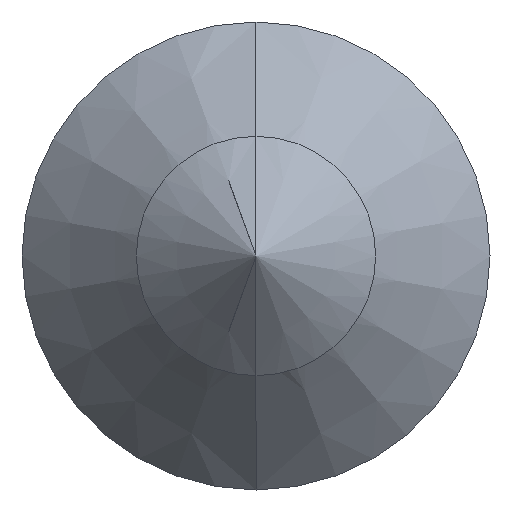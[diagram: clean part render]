
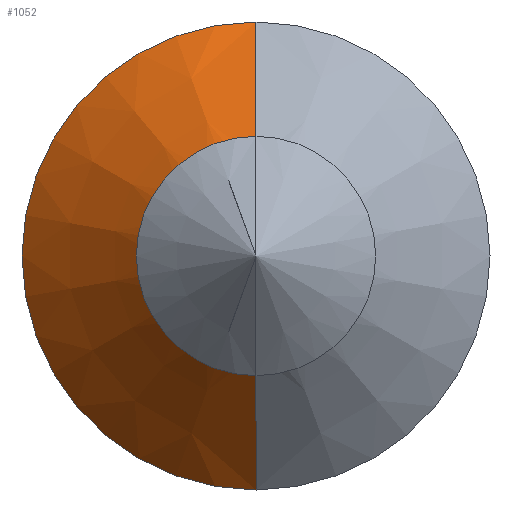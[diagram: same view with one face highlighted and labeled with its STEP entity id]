
A CAD part, left-side view. The second image highlights one B-rep face of the part: STEP entity #1052.
In plain terms, the highlighted conical face has half-angle 43.877 degrees and reference radius 2.15 mm.
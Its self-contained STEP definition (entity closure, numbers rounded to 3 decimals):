
#43 = DIRECTION ( 'NONE',  ( 0., 0., -1. ) ) ;
#60 = CONICAL_SURFACE ( 'NONE', #437, 2.15, 0.766 ) ;
#73 = DIRECTION ( 'NONE',  ( 0., 0., -1. ) ) ;
#119 = VERTEX_POINT ( 'NONE', #1390 ) ;
#157 = DIRECTION ( 'NONE',  ( 1., 0., 0. ) ) ;
#164 = CARTESIAN_POINT ( 'NONE',  ( 0.42, 0., 0. ) ) ;
#172 = CARTESIAN_POINT ( 'NONE',  ( 0.42, 0., -2.15 ) ) ;
#276 = CARTESIAN_POINT ( 'NONE',  ( -0.88, 0., -0.9 ) ) ;
#338 = EDGE_CURVE ( 'NONE', #119, #1272, #1121, .T. ) ;
#367 = DIRECTION ( 'NONE',  ( 1., 0., 0. ) ) ;
#407 = EDGE_CURVE ( 'NONE', #935, #1272, #1012, .T. ) ;
#423 = VERTEX_POINT ( 'NONE', #276 ) ;
#437 = AXIS2_PLACEMENT_3D ( 'NONE', #472, #367, #43 ) ;
#465 = DIRECTION ( 'NONE',  ( 0.721, 0., -0.693 ) ) ;
#469 = EDGE_CURVE ( 'NONE', #423, #935, #950, .T. ) ;
#472 = CARTESIAN_POINT ( 'NONE',  ( 0.42, 0., 0. ) ) ;
#494 = CARTESIAN_POINT ( 'NONE',  ( 0.42, 0., 2.15 ) ) ;
#616 = CARTESIAN_POINT ( 'NONE',  ( -0.88, 0., 0. ) ) ;
#677 = AXIS2_PLACEMENT_3D ( 'NONE', #164, #157, #73 ) ;
#730 = DIRECTION ( 'NONE',  ( 0., 0., -1. ) ) ;
#809 = EDGE_LOOP ( 'NONE', ( #977, #1046, #1115, #1129 ) ) ;
#847 = VECTOR ( 'NONE', #465, 1000. ) ;
#935 = VERTEX_POINT ( 'NONE', #1143 ) ;
#950 = LINE ( 'NONE', #172, #847 ) ;
#957 = DIRECTION ( 'NONE',  ( 0.721, 0., 0.693 ) ) ;
#967 = AXIS2_PLACEMENT_3D ( 'NONE', #616, #1437, #730 ) ;
#977 = ORIENTED_EDGE ( 'NONE', *, *, #1320, .T. ) ;
#1011 = CIRCLE ( 'NONE', #967, 0.9 ) ;
#1012 = CIRCLE ( 'NONE', #677, 2.15 ) ;
#1046 = ORIENTED_EDGE ( 'NONE', *, *, #338, .T. ) ;
#1052 = ADVANCED_FACE ( 'NONE', ( #1398 ), #60, .T. ) ;
#1080 = CARTESIAN_POINT ( 'NONE',  ( 0.42, 0., 2.15 ) ) ;
#1105 = VECTOR ( 'NONE', #957, 1000. ) ;
#1115 = ORIENTED_EDGE ( 'NONE', *, *, #407, .F. ) ;
#1121 = LINE ( 'NONE', #1080, #1105 ) ;
#1129 = ORIENTED_EDGE ( 'NONE', *, *, #469, .F. ) ;
#1143 = CARTESIAN_POINT ( 'NONE',  ( 0.42, 0., -2.15 ) ) ;
#1272 = VERTEX_POINT ( 'NONE', #494 ) ;
#1320 = EDGE_CURVE ( 'NONE', #423, #119, #1011, .T. ) ;
#1390 = CARTESIAN_POINT ( 'NONE',  ( -0.88, 0., 0.9 ) ) ;
#1398 = FACE_OUTER_BOUND ( 'NONE', #809, .T. ) ;
#1437 = DIRECTION ( 'NONE',  ( 1., 0., 0. ) ) ;
